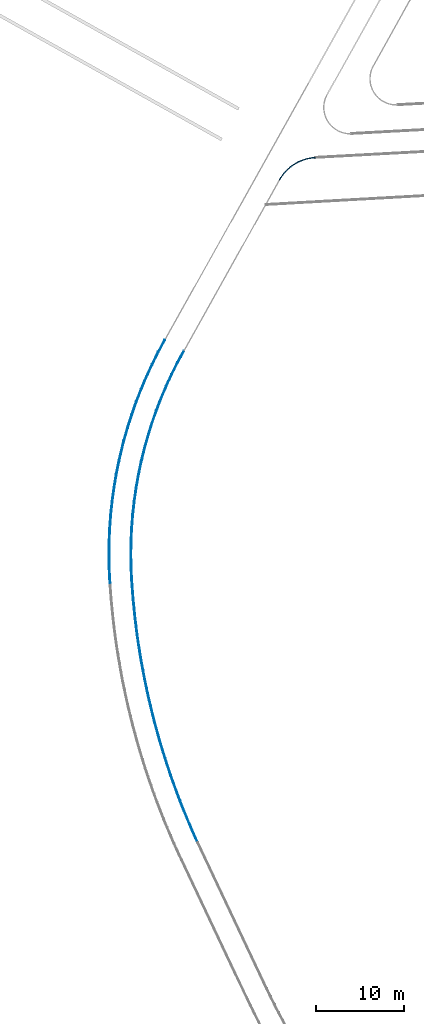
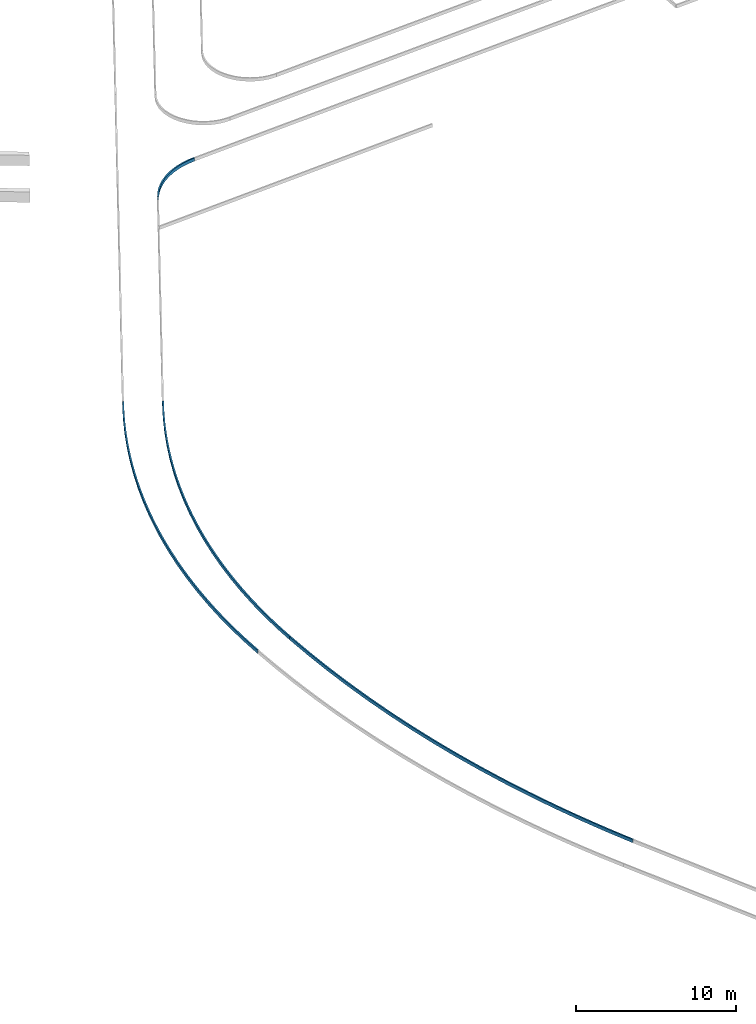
# One storey, part 89 of 112: 4 beams.
"""IFC2X3 building model written with IfcOpenShell, lengths in millimetres."""

from ifc_helpers import new_model, entity, si_unit, converted_unit, derived_unit, direction, frame, origin, place, context, subcontext, project, spatial, faceted_brep, material, type_object, element, save


model = new_model("IFC2X3")

# Units and contexts
model_context = context("Model", 3, precision=0.01, world=origin(), true_north=direction((6.123031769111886e-17, 1.0)))
body_context = subcontext(model_context, "Body", "Model", "MODEL_VIEW")
ifc_project = project(units=[si_unit("LENGTHUNIT", "METRE", prefix="MILLI"), si_unit("AREAUNIT", "SQUARE_METRE"), si_unit("VOLUMEUNIT", "CUBIC_METRE"), converted_unit("PLANEANGLEUNIT", "DEGREE", entity("IfcRatioMeasure", 0.017453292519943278), si_unit("PLANEANGLEUNIT", "RADIAN"), dimensions=[0, 0, 0, 0, 0, 0, 0]), si_unit("MASSUNIT", "GRAM", prefix="KILO"), derived_unit("MASSDENSITYUNIT", [(si_unit("MASSUNIT", "GRAM", prefix="KILO"), 1), (si_unit("LENGTHUNIT", "METRE"), -3)]), derived_unit("MOMENTOFINERTIAUNIT", [(si_unit("LENGTHUNIT", "METRE"), 4)]), si_unit("TIMEUNIT", "SECOND"), si_unit("FREQUENCYUNIT", "HERTZ"), si_unit("THERMODYNAMICTEMPERATUREUNIT", "DEGREE_CELSIUS"), derived_unit("THERMALTRANSMITTANCEUNIT", [(si_unit("MASSUNIT", "GRAM", prefix="KILO"), 1), (si_unit("THERMODYNAMICTEMPERATUREUNIT", "KELVIN"), -1), (si_unit("TIMEUNIT", "SECOND"), -3)]), derived_unit("THERMALCONDUCTANCEUNIT", [(si_unit("MASSUNIT", "GRAM", prefix="KILO"), 1), (si_unit("LENGTHUNIT", "METRE"), 1), (si_unit("THERMODYNAMICTEMPERATUREUNIT", "KELVIN"), -1), (si_unit("TIMEUNIT", "SECOND"), -3)]), derived_unit("VOLUMETRICFLOWRATEUNIT", [(si_unit("LENGTHUNIT", "METRE"), 3), (si_unit("TIMEUNIT", "SECOND"), -1)]), derived_unit("MASSFLOWRATEUNIT", [(si_unit("MASSUNIT", "GRAM", prefix="KILO"), 1), (si_unit("TIMEUNIT", "SECOND"), -1)]), derived_unit("ROTATIONALFREQUENCYUNIT", [(si_unit("TIMEUNIT", "SECOND"), -1)]), si_unit("ELECTRICCURRENTUNIT", "AMPERE"), si_unit("ELECTRICVOLTAGEUNIT", "VOLT"), si_unit("POWERUNIT", "WATT"), converted_unit("FORCEUNIT", "KIP", entity("IfcRatioMeasure", 2.088543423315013e-05), si_unit("FORCEUNIT", "NEWTON"), dimensions=[1, 1, -2, 0, 0, 0, 0]), si_unit("ILLUMINANCEUNIT", "LUX"), si_unit("LUMINOUSFLUXUNIT", "LUMEN"), si_unit("LUMINOUSINTENSITYUNIT", "CANDELA"), derived_unit("USERDEFINED", [(si_unit("MASSUNIT", "GRAM", prefix="KILO"), -1), (si_unit("LENGTHUNIT", "METRE"), -2), (si_unit("TIMEUNIT", "SECOND"), 3), (si_unit("LUMINOUSFLUXUNIT", "LUMEN"), 1)]), derived_unit("USERDEFINED", [(si_unit("MASSUNIT", "GRAM", prefix="KILO"), 1), (si_unit("LENGTHUNIT", "METRE"), 3), (si_unit("TIMEUNIT", "SECOND"), -3), (si_unit("ELECTRICCURRENTUNIT", "AMPERE"), -2)]), derived_unit("USERDEFINED", [(si_unit("LENGTHUNIT", "METRE"), 2), (si_unit("TIMEUNIT", "SECOND"), -2)]), derived_unit("SOUNDPOWERUNIT", [(si_unit("MASSUNIT", "GRAM", prefix="KILO"), 1), (si_unit("LENGTHUNIT", "METRE"), 2), (si_unit("TIMEUNIT", "SECOND"), -3)]), derived_unit("SOUNDPRESSUREUNIT", [(si_unit("MASSUNIT", "GRAM", prefix="KILO"), 1), (si_unit("LENGTHUNIT", "METRE"), -1), (si_unit("TIMEUNIT", "SECOND"), -2)]), derived_unit("LINEARVELOCITYUNIT", [(si_unit("LENGTHUNIT", "METRE"), 1), (si_unit("TIMEUNIT", "SECOND"), -1)]), si_unit("PRESSUREUNIT", "PASCAL"), derived_unit("USERDEFINED", [(si_unit("LENGTHUNIT", "METRE"), -2), (si_unit("MASSUNIT", "GRAM", prefix="KILO"), 1), (si_unit("TIMEUNIT", "SECOND"), -2)]), derived_unit("LINEARFORCEUNIT", [(si_unit("MASSUNIT", "GRAM", prefix="KILO"), 1), (si_unit("LENGTHUNIT", "METRE"), 1), (si_unit("TIMEUNIT", "SECOND"), -2), (si_unit("LENGTHUNIT", "METRE"), -1)]), derived_unit("PLANARFORCEUNIT", [(si_unit("MASSUNIT", "GRAM", prefix="KILO"), 1), (si_unit("LENGTHUNIT", "METRE"), 1), (si_unit("TIMEUNIT", "SECOND"), -2), (si_unit("LENGTHUNIT", "METRE"), -2)]), derived_unit("SPECIFICHEATCAPACITYUNIT", [(si_unit("LENGTHUNIT", "METRE"), 2), (si_unit("TIMEUNIT", "SECOND"), -2), (si_unit("THERMODYNAMICTEMPERATUREUNIT", "KELVIN"), -1)]), derived_unit("VAPORPERMEABILITYUNIT", [(si_unit("TIMEUNIT", "SECOND"), 1), (si_unit("LENGTHUNIT", "METRE"), -1)]), derived_unit("DYNAMICVISCOSITYUNIT", [(si_unit("MASSUNIT", "GRAM", prefix="KILO"), 1), (si_unit("LENGTHUNIT", "METRE"), -1), (si_unit("TIMEUNIT", "SECOND"), -1)]), derived_unit("THERMALEXPANSIONCOEFFICIENTUNIT", [(si_unit("THERMODYNAMICTEMPERATUREUNIT", "KELVIN"), -1)])], contexts=[model_context])

# Site, building, storey
site_placement = place(None, frame((0.0, 0.0, 0.0), z_axis=(0.0, 0.0, 1.0), x_axis=(0.8191520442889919, 0.5735764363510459, 0.0)))
site = spatial("IfcSite", under=ifc_project, at=site_placement, Name="Default", CompositionType="ELEMENT")
building_placement = place(site_placement, origin())
building = spatial("IfcBuilding", under=site, at=building_placement, CompositionType="ELEMENT")
storey_placement = place(building_placement, frame((0.0, 0.0, -3600.0)))
storey = spatial("IfcBuildingStorey", under=building, at=storey_placement, Name="0.UG -3.60", CompositionType="ELEMENT", Elevation=-3600.0000000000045)

# Beams
ifc_material = material(Name="Paveta_bordur")
beam_type_1 = type_object("IfcBeamType", Name="Beam-179", PredefinedType="NOTDEFINED")
beam_1_placement = place(storey_placement, frame((-110553.25388748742, 25215.097111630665, 1860.0)))
element("IfcBeam", 1, at=beam_1_placement, inside=storey, type_object=beam_type_1, material=ifc_material, Name="Beam-179:Beam-179", ObjectType="Beam-179:Beam-179", context=body_context, shape_type="Brep", body=[
    faceted_brep([(11095.487912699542, 28818.698177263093, 250.0), (11095.487912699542, 28818.698177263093, 0.0), (11010.138961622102, 28870.8091794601, 0.0), (11010.138961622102, 28870.8091794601, 250.0), (1.5952722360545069, 19.58403078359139, 0.0), (99.96398965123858, 1.5952722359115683, 0.0), (99.96398965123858, 1.5952722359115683, 250.0), (1.5952722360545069, 19.58403078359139, 250.0), (2274.257834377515, 9044.453986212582, 0.0), (1983.6300221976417, 8052.226751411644, 0.0), (1705.1711549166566, 7056.515914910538, 0.0), (1438.9229679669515, 6057.470713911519, 0.0), (1184.9253666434, 5055.240885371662, 0.0), (943.2164201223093, 4049.9766435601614, 0.0), (713.8323557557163, 3041.828657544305, 0.0), (496.80755364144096, 2030.9480286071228, 0.0), (292.1745414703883, 1017.4862676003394, 0.0), (200.25200485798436, 1035.4618841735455, 0.0), (398.90873747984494, 2051.3397375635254, 0.0), (622.3774664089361, 3062.049407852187, 0.0), (845.8461953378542, 4072.7590781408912, 0.0), (1093.992951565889, 5077.694647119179, 0.0), (1342.1397077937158, 6082.630216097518, 0.0), (1614.8157278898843, 7081.189227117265, 0.0), (1887.4917479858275, 8079.748238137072, 0.0), (2184.5335632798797, 9071.332057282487, 0.0), (2481.575378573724, 10062.915876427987, 0.0), (2802.804913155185, 11046.930051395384, 0.0), (3124.034447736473, 12030.944226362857, 0.0), (3469.2591252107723, 13006.798842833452, 0.0), (3814.4838026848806, 13982.653459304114, 0.0), (4183.496661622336, 14949.763494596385, 0.0), (4552.509520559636, 15916.873529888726, 0.0), (4945.089338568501, 16874.65920367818, 0.0), (5337.6691565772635, 17832.444877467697, 0.0), (5753.580582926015, 18780.331999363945, 0.0), (6169.492009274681, 19728.21912126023, 0.0), (6608.485705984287, 20665.639435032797, 0.0), (7047.479402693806, 21603.059748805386, 0.0), (7509.292194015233, 22529.451273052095, 0.0), (7971.104985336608, 23455.84279729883, 0.0), (8455.460015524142, 24370.650162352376, 0.0), (8939.815045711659, 25285.457527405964, 0.0), (9446.421944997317, 26188.13230827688, 0.0), (9953.028844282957, 27090.807089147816, 0.0), (10362.101752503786, 27779.619559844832, 0.0), (10562.116373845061, 27932.98139847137, 0.0), (10039.628035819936, 27040.801289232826, 0.0), (9528.101209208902, 26142.291569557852, 0.0), (9027.612561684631, 25237.586908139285, 0.0), (8538.237106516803, 24326.822902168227, 0.0), (8060.048191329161, 23410.136057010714, 0.0), (7593.11748710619, 22487.663765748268, 0.0), (7137.51497745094, 21559.544288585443, 0.0), (6693.308948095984, 20625.91673212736, 0.0), (6260.565976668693, 19686.92102853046, 0.0), (5839.350922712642, 18742.697914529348, 0.0), (5429.726917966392, 17793.38891034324, 0.0), (5031.755356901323, 16839.136298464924, 0.0), (4645.495887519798, 15880.083102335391, 0.0), (4271.0064024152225, 14916.373064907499, 0.0), (3908.3430300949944, 13948.150627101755, 0.0), (3557.5601265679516, 12975.56090615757, 0.0), (3218.7102671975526, 11998.749673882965, 0.0), (2891.8442388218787, 11017.863334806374, 0.0), (2577.0110321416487, 10033.048904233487, 0.0), (9953.028844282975, 27090.80708914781, 250.0), (10481.583902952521, 27980.808134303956, 250.0), (8939.815045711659, 25285.45752740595, 250.0), (9446.421944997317, 26188.13230827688, 250.0), (8455.460015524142, 24370.650162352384, 250.0), (7971.104985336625, 23455.842797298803, 250.0), (6608.485705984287, 20665.639435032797, 250.0), (7047.479402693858, 21603.05974880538, 250.0), (6169.4920092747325, 19728.219121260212, 250.0), (4945.089338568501, 16874.65920367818, 250.0), (5337.669156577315, 17832.44487746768, 250.0), (4552.509520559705, 15916.873529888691, 250.0), (5753.580582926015, 18780.331999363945, 250.0), (7509.292194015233, 22529.451273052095, 250.0), (3124.0344477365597, 12030.944226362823, 250.0), (3469.2591252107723, 13006.798842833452, 250.0), (3814.4838026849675, 13982.65345930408, 250.0), (4183.496661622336, 14949.763494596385, 250.0), (1887.4917479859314, 8079.748238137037, 250.0), (2184.5335632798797, 9071.33205728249, 250.0), (2481.57537857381, 10062.915876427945, 250.0), (2802.804913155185, 11046.930051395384, 250.0), (1093.992951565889, 5077.694647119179, 250.0), (1342.139707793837, 6082.630216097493, 250.0), (845.8461953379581, 4072.75907814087, 250.0), (245.15910150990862, 1265.104868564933, 250.0), (398.9087374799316, 2051.3397375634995, 250.0), (622.3774664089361, 3062.0494078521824, 250.0), (1614.8157278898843, 7081.189227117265, 250.0), (2577.0110321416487, 10033.048904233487, 250.0), (2891.8442388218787, 11017.863334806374, 250.0), (3218.7102671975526, 11998.749673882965, 250.0), (3557.5601265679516, 12975.56090615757, 250.0), (3908.3430300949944, 13948.150627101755, 250.0), (4271.0064024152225, 14916.373064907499, 250.0), (4645.495887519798, 15880.083102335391, 250.0), (5031.755356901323, 16839.136298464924, 250.0), (5429.726917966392, 17793.38891034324, 250.0), (5839.350922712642, 18742.697914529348, 250.0), (6260.565976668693, 19686.92102853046, 250.0), (6693.308948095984, 20625.91673212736, 250.0), (7137.51497745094, 21559.544288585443, 250.0), (7593.11748710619, 22487.663765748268, 250.0), (8060.048191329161, 23410.136057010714, 250.0), (8538.237106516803, 24326.822902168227, 250.0), (9027.612561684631, 25237.586908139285, 250.0), (9528.101209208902, 26142.291569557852, 250.0), (10039.628035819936, 27040.801289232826, 250.0), (10562.116373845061, 27932.98139847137, 250.0), (292.1745414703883, 1017.4862676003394, 250.0), (496.80755364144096, 2030.9480286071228, 250.0), (713.8323557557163, 3041.828657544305, 250.0), (943.2164201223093, 4049.9766435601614, 250.0), (1184.9253666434, 5055.240885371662, 250.0), (1438.9229679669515, 6057.470713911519, 250.0), (1705.1711549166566, 7056.515914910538, 250.0), (1983.6300221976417, 8052.226751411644, 250.0), (2274.257834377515, 9044.453986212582, 250.0)], [[[0, 1, 2, 3]], [[4, 5, 6, 7]], [[8, 9, 10, 11, 12, 13, 14, 15, 16, 5, 4, 17, 18, 19, 20, 21, 22, 23, 24, 25, 26, 27, 28, 29, 30, 31, 32, 33, 34, 35, 36, 37, 38, 39, 40, 41, 42, 43, 44, 45, 2, 1, 46, 47, 48, 49, 50, 51, 52, 53, 54, 55, 56, 57, 58, 59, 60, 61, 62, 63, 64, 65]], [[2, 45, 44, 66, 67, 3]], [[66, 44, 43, 42, 68, 69]], [[70, 68, 42, 41, 40, 71]], [[72, 73, 38, 37, 36, 74]], [[75, 76, 34, 33, 32, 77]], [[78, 74, 36, 35, 34, 76]], [[79, 71, 40, 39, 38, 73]], [[28, 80, 81, 82, 30, 29]], [[77, 32, 31, 30, 82, 83]], [[24, 84, 85, 86, 26, 25]], [[26, 86, 87, 80, 28, 27]], [[88, 89, 22, 21, 20, 90]], [[17, 4, 7, 91, 92, 18]], [[93, 90, 20, 19, 18, 92]], [[94, 84, 24, 23, 22, 89]], [[95, 96, 97, 98, 99, 100, 101, 102, 103, 104, 105, 106, 107, 108, 109, 110, 111, 112, 113, 114, 0, 3, 67, 66, 69, 68, 70, 71, 79, 73, 72, 74, 78, 76, 75, 77, 83, 82, 81, 80, 87, 86, 85, 84, 94, 89, 88, 90, 93, 92, 91, 7, 6, 115, 116, 117, 118, 119, 120, 121, 122, 123]], [[46, 1, 0, 114]], [[46, 114, 113, 47]], [[112, 111, 49, 48]], [[110, 109, 51, 50]], [[111, 110, 50, 49]], [[48, 47, 113, 112]], [[108, 107, 53, 52]], [[106, 105, 55, 54]], [[107, 106, 54, 53]], [[104, 103, 57, 56]], [[102, 101, 59, 58]], [[103, 102, 58, 57]], [[105, 104, 56, 55]], [[109, 108, 52, 51]], [[101, 100, 60, 59]], [[98, 97, 63, 62]], [[99, 98, 62, 61]], [[96, 95, 65, 64]], [[123, 122, 9, 8]], [[95, 123, 8, 65]], [[97, 96, 64, 63]], [[121, 120, 11, 10]], [[119, 118, 13, 12]], [[120, 119, 12, 11]], [[117, 116, 15, 14]], [[115, 6, 5, 16]], [[116, 115, 16, 15]], [[118, 117, 14, 13]], [[122, 121, 10, 9]], [[99, 61, 60, 100]]]),
])
beam_type_2 = type_object("IfcBeamType", Name="Beam-178", PredefinedType="NOTDEFINED")
beam_2_placement = place(storey_placement, frame((-99544.74751625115, 54032.26123607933, 1860.0)))
element("IfcBeam", 2, at=beam_2_placement, inside=storey, type_object=beam_type_2, material=ifc_material, Name="Beam-178:Beam-178", ObjectType="Beam-178:Beam-178", context=body_context, shape_type="Brep", body=[
    faceted_brep([(19970.855303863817, 18054.143396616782, 250.0), (19970.855303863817, 18054.143396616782, 0.0), (19927.336535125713, 18144.177372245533, 0.0), (19927.336535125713, 18144.177372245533, 250.0), (1.5952722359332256, 53.58383558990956, 0.0), (87.01885961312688, 1.5952722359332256, 0.0), (87.01885961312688, 1.5952722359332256, 250.0), (1.5952722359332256, 53.58383558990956, 250.0), (5442.10303636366, 7324.928878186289, 0.0), (6479.693548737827, 8429.956546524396, 0.0), (7551.978706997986, 9501.35038565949, 0.0), (8657.86883150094, 10538.021621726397, 0.0), (9796.240092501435, 11538.916766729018, 0.0), (10965.93565221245, 12503.018689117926, 0.0), (12165.766840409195, 13429.347647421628, 0.0), (13394.514362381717, 14316.962285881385, 0.0), (14650.929538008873, 15164.960591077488, 0.0), (15933.735570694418, 15972.480808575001, 0.0), (17241.62884487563, 16738.70231865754, 0.0), (18573.280250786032, 17462.84647025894, 0.0), (19273.23998409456, 17709.86135661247, 0.0), (18581.36274807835, 17354.18854667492, 0.0), (17895.409570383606, 16987.22057061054, 0.0), (17215.56483320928, 16609.05606833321, 0.0), (16542.011276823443, 16219.796689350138, 0.0), (15874.929950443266, 15819.547065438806, 0.0), (15214.500163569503, 15408.414782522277, 0.0), (14560.899437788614, 14986.510351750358, 0.0), (13914.303459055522, 14553.947179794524, 0.0), (13274.88603046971, 14110.841538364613, 0.0), (12642.819025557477, 13657.312532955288, 0.0), (12018.27234207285, 13193.482070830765, 0.0), (11401.41385632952, 12719.474828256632, 0.0), (10792.409378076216, 12235.41821698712, 0.0), (10191.422605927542, 11741.442350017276, 0.0), (9598.615083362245, 11237.6800066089, 0.0), (9014.146155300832, 10724.266596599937, 0.0), (8438.172925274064, 10201.340124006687, 0.0), (7870.850213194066, 9669.041149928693, 0.0), (7312.330513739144, 9127.512754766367, 0.0), (6762.763955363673, 8576.900499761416, 0.0), (6222.298259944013, 8017.352387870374, 0.0), (5691.078703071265, 7449.018823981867, 0.0), (5169.2480750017, 6872.052574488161, 0.0), (4656.946642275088, 6286.608726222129, 0.0), (4154.312110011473, 5692.844644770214, 0.0), (3661.4795848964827, 5090.919932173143, 0.0), (3178.5815388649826, 4480.996384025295, 0.0), (2705.7477734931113, 3863.2379459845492, 0.0), (2243.105385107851, 3237.810669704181, 0.0), (1790.7787306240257, 2604.882668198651, 0.0), (1348.8893941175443, 1964.6240706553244, 0.0), (917.5561541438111, 1317.206976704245, 0.0), (496.89495181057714, 662.8054101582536, 0.0), (810.1819647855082, 1335.7179080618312, 0.0), (1659.2247849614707, 2591.427471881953, 0.0), (2547.8609168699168, 3819.4364475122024, 0.0), (3475.187309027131, 5018.496905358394, 0.0), (4440.261592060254, 6187.3903339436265, 0.0), (15933.735570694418, 15972.480808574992, 250.0), (17241.628844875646, 16738.70231865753, 250.0), (14650.929538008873, 15164.960591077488, 250.0), (9796.240092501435, 11538.916766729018, 250.0), (10965.93565221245, 12503.018689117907, 250.0), (12165.766840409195, 13429.347647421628, 250.0), (13394.514362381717, 14316.962285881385, 250.0), (8657.868831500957, 10538.021621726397, 250.0), (18573.280250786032, 17462.846470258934, 250.0), (6479.693548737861, 8429.956546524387, 250.0), (5442.103036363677, 7324.928878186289, 250.0), (7551.978706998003, 9501.350385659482, 250.0), (4440.261592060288, 6187.390333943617, 250.0), (810.1819647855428, 1335.7179080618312, 250.0), (1659.2247849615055, 2591.4274718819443, 250.0), (3475.187309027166, 5018.4969053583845, 250.0), (2547.8609168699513, 3819.436447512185, 250.0), (5169.2480750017, 6872.052574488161, 250.0), (5691.078703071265, 7449.018823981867, 250.0), (6222.298259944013, 8017.352387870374, 250.0), (6762.763955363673, 8576.900499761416, 250.0), (7312.330513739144, 9127.512754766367, 250.0), (7870.850213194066, 9669.041149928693, 250.0), (8438.172925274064, 10201.340124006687, 250.0), (9014.146155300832, 10724.266596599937, 250.0), (9598.615083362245, 11237.6800066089, 250.0), (10191.422605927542, 11741.442350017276, 250.0), (10792.409378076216, 12235.41821698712, 250.0), (11401.41385632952, 12719.474828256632, 250.0), (12018.27234207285, 13193.482070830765, 250.0), (12642.819025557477, 13657.312532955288, 250.0), (13274.88603046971, 14110.841538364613, 250.0), (13914.303459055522, 14553.947179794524, 250.0), (14560.899437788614, 14986.510351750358, 250.0), (15214.500163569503, 15408.414782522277, 250.0), (15874.929950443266, 15819.547065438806, 250.0), (16542.011276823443, 16219.796689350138, 250.0), (17215.56483320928, 16609.05606833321, 250.0), (17895.409570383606, 16987.22057061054, 250.0), (18581.36274807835, 17354.18854667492, 250.0), (19273.23998409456, 17709.86135661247, 250.0), (496.89495181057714, 662.8054101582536, 250.0), (917.5561541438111, 1317.206976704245, 250.0), (1348.8893941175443, 1964.6240706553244, 250.0), (1790.7787306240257, 2604.882668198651, 250.0), (2243.105385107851, 3237.810669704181, 250.0), (2705.7477734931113, 3863.2379459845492, 250.0), (3178.5815388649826, 4480.996384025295, 250.0), (3661.4795848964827, 5090.919932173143, 250.0), (4154.312110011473, 5692.844644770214, 250.0), (4656.946642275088, 6286.608726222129, 250.0)], [[[0, 1, 2, 3]], [[4, 5, 6, 7]], [[8, 9, 10, 11, 12, 13, 14, 15, 16, 17, 18, 19, 2, 1, 20, 21, 22, 23, 24, 25, 26, 27, 28, 29, 30, 31, 32, 33, 34, 35, 36, 37, 38, 39, 40, 41, 42, 43, 44, 45, 46, 47, 48, 49, 50, 51, 52, 53, 5, 4, 54, 55, 56, 57, 58]], [[18, 17, 59, 60]], [[16, 61, 59, 17]], [[13, 12, 62, 63]], [[14, 64, 65, 15]], [[64, 14, 13, 63]], [[16, 15, 65, 61]], [[62, 12, 11, 66]], [[19, 67, 3, 2]], [[19, 18, 60, 67]], [[68, 9, 8, 69]], [[70, 10, 9, 68]], [[69, 8, 58, 71]], [[55, 54, 72, 73]], [[74, 57, 56, 75]], [[75, 56, 55, 73]], [[58, 57, 74, 71]], [[72, 54, 4, 7]], [[66, 11, 10, 70]], [[76, 77, 78, 79, 80, 81, 82, 83, 84, 85, 86, 87, 88, 89, 90, 91, 92, 93, 94, 95, 96, 97, 98, 99, 0, 3, 67, 60, 59, 61, 65, 64, 63, 62, 66, 70, 68, 69, 71, 74, 75, 73, 72, 7, 6, 100, 101, 102, 103, 104, 105, 106, 107, 108, 109]], [[23, 96, 95, 24]], [[24, 95, 94, 25]], [[94, 93, 26, 25]], [[99, 20, 1, 0]], [[22, 21, 98, 97]], [[22, 97, 96, 23]], [[21, 20, 99, 98]], [[27, 26, 93, 92]], [[33, 32, 87, 86]], [[34, 33, 86, 85]], [[35, 34, 85, 84]], [[29, 28, 91, 90]], [[89, 88, 31, 30]], [[29, 90, 89, 30]], [[32, 31, 88, 87]], [[27, 92, 91, 28]], [[36, 35, 84, 83]], [[83, 82, 37, 36]], [[41, 78, 77, 42]], [[42, 77, 76, 43]], [[43, 76, 109, 44]], [[38, 37, 82, 81]], [[40, 39, 80, 79]], [[81, 80, 39, 38]], [[40, 79, 78, 41]], [[45, 44, 109, 108]], [[51, 50, 103, 102]], [[52, 51, 102, 101]], [[53, 52, 101, 100]], [[47, 46, 107, 106]], [[105, 104, 49, 48]], [[47, 106, 105, 48]], [[50, 49, 104, 103]], [[45, 108, 107, 46]], [[5, 53, 100, 6]]]),
])
beam_type_3 = type_object("IfcBeamType", Name="Beam-177", PredefinedType="NOTDEFINED")
beam_3_placement = place(storey_placement, frame((-101743.75888452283, 55227.97258283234, 1860.0)))
element("IfcBeam", 3, at=beam_3_placement, inside=storey, type_object=beam_type_3, material=ifc_material, Name="Beam-177 220085:Beam-177 220085", ObjectType="Beam-177 220085:Beam-177 220085", context=body_context, shape_type="Brep", body=[
    faceted_brep([(21081.897641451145, 19109.2815313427, 250.0), (21081.897641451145, 19109.2815313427, 0.0), (21038.37849717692, 19199.315325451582, 0.0), (21038.37849717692, 19199.315325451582, 250.0), (1.5952722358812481, 53.37668340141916, 0.0), (87.1445881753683, 1.5952722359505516, 0.0), (87.1445881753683, 1.5952722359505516, 250.0), (1.5952722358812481, 53.37668340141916, 250.0), (6621.810633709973, 8702.193886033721, 0.0), (7715.890899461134, 9812.784825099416, 0.0), (8844.028353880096, 10888.763331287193, 0.0), (9420.527763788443, 11413.44537089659, 0.0), (10597.68881595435, 12435.558730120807, 0.0), (11806.111236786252, 13420.515132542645, 0.0), (13044.62265692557, 14367.359007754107, 0.0), (14312.021515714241, 15275.171760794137, 0.0), (15607.078226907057, 16143.072663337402, 0.0), (16928.53637157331, 16970.219708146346, 0.0), (18275.11391703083, 17755.8104259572, 0.0), (19645.504460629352, 18499.08266400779, 0.0), (20384.131032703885, 18765.27726794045, 0.0), (19691.806479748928, 18410.44789077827, 0.0), (19005.091910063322, 18044.879465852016, 0.0), (18324.15389038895, 17668.660663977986, 0.0), (17649.157586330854, 17281.882739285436, 0.0), (16980.26672229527, 16884.63950708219, 0.0), (16317.643541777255, 16477.02732109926, 0.0), (15661.448768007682, 16059.145050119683, 0.0), (15011.84156496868, 15631.094053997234, 0.0), (14368.9794987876, 15192.97815907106, 0.0), (13733.018499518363, 14744.903632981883, 0.0), (13104.112823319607, 14286.979158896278, 0.0), (12482.415015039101, 13819.315809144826, 0.0), (11868.075871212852, 13342.027018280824, 0.0), (11261.24440348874, 12855.228555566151, 0.0), (10662.06780248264, 12359.038496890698, 0.0), (10070.691402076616, 11853.577196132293, 0.0), (9487.258644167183, 11338.967255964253, 0.0), (8911.911043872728, 10815.333498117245, 0.0), (8344.788155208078, 10282.802933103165, 0.0), (7786.0275372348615, 9741.504729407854, 0.0), (7235.764720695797, 9191.570182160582, 0.0), (6694.1331751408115, 8633.132681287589, 0.0), (6161.264276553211, 8066.3276791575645, 0.0), (5637.287275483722, 7491.292657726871, 0.0), (5122.3292656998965, 6908.167095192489, 0.0), (4616.515153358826, 6317.092432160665, 0.0), (4119.967626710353, 5718.2120373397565, 0.0), (3632.807126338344, 5111.67117276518, 0.0), (3155.151815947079, 4497.616958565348, 0.0), (2687.1175536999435, 3876.198337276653, 0.0), (2228.817864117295, 3247.566037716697, 0.0), (1780.3639105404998, 2611.8725384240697, 0.0), (1341.8644681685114, 1969.2720306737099, 0.0), (913.4258976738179, 1319.9203810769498, 0.0), (495.1521194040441, 663.9750937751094, 0.0), (829.5307448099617, 1374.3409959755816, 0.0), (1698.2043129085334, 2668.8795600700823, 0.0), (2606.7732196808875, 3935.7364594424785, 0.0), (3554.356003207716, 5173.682633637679, 0.0), (4540.0333516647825, 6381.517070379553, 0.0), (5562.848995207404, 7558.067970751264, 0.0), (18275.11391703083, 17755.810425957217, 250.0), (16928.53637157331, 16970.219708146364, 250.0), (19645.504460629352, 18499.08266400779, 250.0), (15607.078226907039, 16143.072663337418, 250.0), (10597.688815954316, 12435.558730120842, 250.0), (11806.111236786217, 13420.515132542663, 250.0), (14312.021515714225, 15275.171760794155, 250.0), (13044.622656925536, 14367.359007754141, 250.0), (9420.527763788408, 11413.445370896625, 250.0), (8844.02835388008, 10888.76333128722, 250.0), (6621.810633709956, 8702.193886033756, 250.0), (5562.848995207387, 7558.067970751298, 250.0), (7715.8908994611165, 9812.78482509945, 250.0), (4540.0333516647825, 6381.517070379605, 250.0), (829.5307448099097, 1374.3409959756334, 250.0), (1698.2043129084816, 2668.879560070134, 250.0), (3554.3560032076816, 5173.682633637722, 250.0), (2606.7732196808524, 3935.7364594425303, 250.0), (495.1521194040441, 663.9750937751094, 250.0), (913.4258976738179, 1319.9203810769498, 250.0), (1341.8644681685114, 1969.2720306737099, 250.0), (1780.3639105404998, 2611.8725384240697, 250.0), (2228.817864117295, 3247.566037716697, 250.0), (2687.1175536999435, 3876.198337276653, 250.0), (3155.151815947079, 4497.616958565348, 250.0), (3632.807126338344, 5111.67117276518, 250.0), (4119.967626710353, 5718.2120373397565, 250.0), (4616.515153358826, 6317.092432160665, 250.0), (5122.3292656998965, 6908.167095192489, 250.0), (5637.287275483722, 7491.292657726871, 250.0), (6161.264276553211, 8066.3276791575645, 250.0), (6694.1331751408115, 8633.132681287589, 250.0), (7235.764720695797, 9191.570182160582, 250.0), (7786.0275372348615, 9741.504729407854, 250.0), (8344.788155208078, 10282.802933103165, 250.0), (8911.911043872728, 10815.333498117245, 250.0), (9487.258644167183, 11338.967255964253, 250.0), (10070.691402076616, 11853.577196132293, 250.0), (10662.06780248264, 12359.038496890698, 250.0), (11261.24440348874, 12855.228555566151, 250.0), (11868.075871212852, 13342.027018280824, 250.0), (12482.415015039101, 13819.315809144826, 250.0), (13104.112823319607, 14286.979158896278, 250.0), (13733.018499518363, 14744.903632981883, 250.0), (14368.9794987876, 15192.97815907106, 250.0), (15011.84156496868, 15631.094053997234, 250.0), (15661.448768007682, 16059.145050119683, 250.0), (16317.643541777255, 16477.02732109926, 250.0), (16980.26672229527, 16884.63950708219, 250.0), (17649.157586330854, 17281.882739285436, 250.0), (18324.15389038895, 17668.660663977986, 250.0), (19005.091910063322, 18044.879465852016, 250.0), (19691.806479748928, 18410.44789077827, 250.0), (20384.131032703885, 18765.27726794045, 250.0)], [[[0, 1, 2, 3]], [[4, 5, 6, 7]], [[8, 9, 10, 11, 12, 13, 14, 15, 16, 17, 18, 19, 2, 1, 20, 21, 22, 23, 24, 25, 26, 27, 28, 29, 30, 31, 32, 33, 34, 35, 36, 37, 38, 39, 40, 41, 42, 43, 44, 45, 46, 47, 48, 49, 50, 51, 52, 53, 54, 55, 5, 4, 56, 57, 58, 59, 60, 61]], [[62, 18, 17, 63]], [[64, 19, 18, 62]], [[2, 19, 64, 3]], [[63, 17, 16, 65]], [[13, 12, 66, 67]], [[68, 15, 14, 69]], [[69, 14, 13, 67]], [[16, 15, 68, 65]], [[66, 12, 11, 70]], [[11, 10, 71, 70]], [[72, 8, 61, 73]], [[71, 10, 9, 74]], [[8, 72, 74, 9]], [[73, 61, 60, 75]], [[57, 56, 76, 77]], [[78, 59, 58, 79]], [[79, 58, 57, 77]], [[60, 59, 78, 75]], [[76, 56, 4, 7]], [[73, 75, 78, 79, 77, 76, 7, 6, 80, 81, 82, 83, 84, 85, 86, 87, 88, 89, 90, 91, 92, 93, 94, 95, 96, 97, 98, 99, 100, 101, 102, 103, 104, 105, 106, 107, 108, 109, 110, 111, 112, 113, 114, 115, 0, 3, 64, 62, 63, 65, 68, 69, 67, 66, 70, 71, 74, 72]], [[23, 112, 111, 24]], [[24, 111, 110, 25]], [[25, 110, 109, 26]], [[115, 20, 1, 0]], [[22, 21, 114, 113]], [[22, 113, 112, 23]], [[20, 115, 114, 21]], [[26, 109, 108, 27]], [[33, 32, 103, 102]], [[35, 34, 101, 100]], [[102, 101, 34, 33]], [[36, 35, 100, 99]], [[29, 28, 107, 106]], [[31, 30, 105, 104]], [[29, 106, 105, 30]], [[32, 31, 104, 103]], [[28, 27, 108, 107]], [[37, 36, 99, 98]], [[98, 97, 38, 37]], [[42, 93, 92, 43]], [[43, 92, 91, 44]], [[44, 91, 90, 45]], [[39, 38, 97, 96]], [[41, 40, 95, 94]], [[96, 95, 40, 39]], [[41, 94, 93, 42]], [[46, 45, 90, 89]], [[52, 51, 84, 83]], [[54, 53, 82, 81]], [[83, 82, 53, 52]], [[55, 54, 81, 80]], [[48, 47, 88, 87]], [[86, 85, 50, 49]], [[48, 87, 86, 49]], [[51, 50, 85, 84]], [[47, 46, 89, 88]], [[5, 55, 80, 6]]]),
])
beam_type_4 = type_object("IfcBeamType", Name="Beam-176", PredefinedType="NOTDEFINED")
beam_4_placement = place(storey_placement, frame((-59495.61941831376, 81557.70583450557, 1860.0)))
element("IfcBeam", 4, at=beam_4_placement, inside=storey, type_object=beam_type_4, material=ifc_material, Name="Beam-176:Beam-176", ObjectType="Beam-176:Beam-176", context=body_context, shape_type="Brep", body=[
    faceted_brep([(4814.516280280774, 1.5952722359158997, 250.0), (4814.516280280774, 1.5952722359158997, 0.0), (4867.34907193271, 86.49931293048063, 0.0), (4867.34907193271, 86.49931293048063, 250.0), (1.5952722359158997, 345.561027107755, 0.0), (45.11404097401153, 255.527051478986, 0.0), (45.11404097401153, 255.527051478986, 250.0), (1.5952722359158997, 345.561027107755, 250.0), (1381.9377000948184, 782.2607694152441, 0.0), (1862.8355220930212, 837.6245051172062, 0.0), (2346.824859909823, 846.6897857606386, 0.0), (2588.5891207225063, 833.817810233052, 0.0), (3068.879715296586, 773.4124859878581, 0.0), (3541.1801767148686, 667.2987141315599, 0.0), (4001.1508066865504, 516.4515133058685, 0.0), (4444.565198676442, 322.25693199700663, 0.0), (4599.709646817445, 127.87521508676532, 0.0), (4378.820438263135, 243.18554112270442, 0.0), (4152.408380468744, 347.2340578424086, 0.0), (3921.047194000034, 439.75710979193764, 0.0), (3685.3231403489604, 520.5202466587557, 0.0), (3445.83353636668, 589.318817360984, 0.0), (3203.18524068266, 645.9784886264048, 0.0), (2957.9931159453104, 690.3556867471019, 0.0), (2710.8784707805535, 722.3379613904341, 0.0), (2462.4674854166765, 741.8442705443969, 0.0), (2213.389624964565, 748.825185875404, 0.0), (1964.2760443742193, 743.2630179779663, 0.0), (1715.7579891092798, 725.1718611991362, 0.0), (1468.465195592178, 694.5975579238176, 0.0), (1223.0242954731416, 651.6175824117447, 0.0), (980.0572277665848, 596.3408444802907, 0.0), (740.1796628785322, 528.9074135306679, 0.0), (503.9994425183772, 449.4881636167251, 0.0), (272.1150394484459, 358.28434045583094, 0.0), (447.0223745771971, 535.0934911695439, 0.0), (908.5500884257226, 681.1072842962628, 0.0), (4001.1508066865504, 516.4515133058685, 250.0), (4444.565198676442, 322.25693199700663, 250.0), (3541.1801767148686, 667.2987141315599, 250.0), (3068.879715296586, 773.4124859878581, 250.0), (2588.5891207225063, 833.817810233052, 250.0), (2346.824859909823, 846.6897857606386, 250.0), (1862.8355220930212, 837.6245051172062, 250.0), (1381.9377000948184, 782.2607694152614, 250.0), (908.550088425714, 681.1072842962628, 250.0), (447.0223745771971, 535.0934911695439, 250.0), (1468.465195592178, 694.5975579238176, 250.0), (1715.7579891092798, 725.1718611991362, 250.0), (1964.2760443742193, 743.2630179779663, 250.0), (2213.389624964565, 748.825185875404, 250.0), (2462.4674854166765, 741.8442705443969, 250.0), (2710.8784707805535, 722.3379613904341, 250.0), (2957.9931159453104, 690.3556867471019, 250.0), (3203.18524068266, 645.9784886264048, 250.0), (3445.83353636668, 589.318817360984, 250.0), (3685.3231403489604, 520.5202466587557, 250.0), (3921.047194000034, 439.75710979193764, 250.0), (4152.408380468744, 347.2340578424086, 250.0), (4378.820438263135, 243.18554112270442, 250.0), (4599.709646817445, 127.87521508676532, 250.0), (272.1150394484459, 358.28434045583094, 250.0), (503.9994425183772, 449.4881636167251, 250.0), (740.1796628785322, 528.9074135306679, 250.0), (980.0572277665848, 596.3408444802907, 250.0), (1223.0242954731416, 651.6175824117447, 250.0)], [[[0, 1, 2, 3]], [[4, 5, 6, 7]], [[8, 9, 10, 11, 12, 13, 14, 15, 2, 1, 16, 17, 18, 19, 20, 21, 22, 23, 24, 25, 26, 27, 28, 29, 30, 31, 32, 33, 34, 5, 4, 35, 36]], [[37, 38, 15, 14]], [[2, 15, 38, 3]], [[39, 13, 12, 40]], [[13, 39, 37, 14]], [[11, 41, 40, 12]], [[11, 10, 42, 41]], [[42, 10, 9, 43]], [[8, 44, 43, 9]], [[45, 36, 35, 46]], [[8, 36, 45, 44]], [[46, 35, 4, 7]], [[47, 48, 49, 50, 51, 52, 53, 54, 55, 56, 57, 58, 59, 60, 0, 3, 38, 37, 39, 40, 41, 42, 43, 44, 45, 46, 7, 6, 61, 62, 63, 64, 65]], [[19, 18, 58, 57]], [[60, 16, 1, 0]], [[20, 19, 57, 56]], [[53, 52, 24, 23]], [[22, 21, 55, 54]], [[23, 22, 54, 53]], [[56, 55, 21, 20]], [[25, 24, 52, 51]], [[58, 18, 17, 59]], [[60, 59, 17, 16]], [[29, 28, 48, 47]], [[27, 26, 50, 49]], [[27, 49, 48, 28]], [[30, 29, 47, 65]], [[62, 61, 34, 33]], [[32, 31, 64, 63]], [[33, 32, 63, 62]], [[65, 64, 31, 30]], [[5, 34, 61, 6]], [[50, 26, 25, 51]]]),
])

save(model, "model.ifc")
